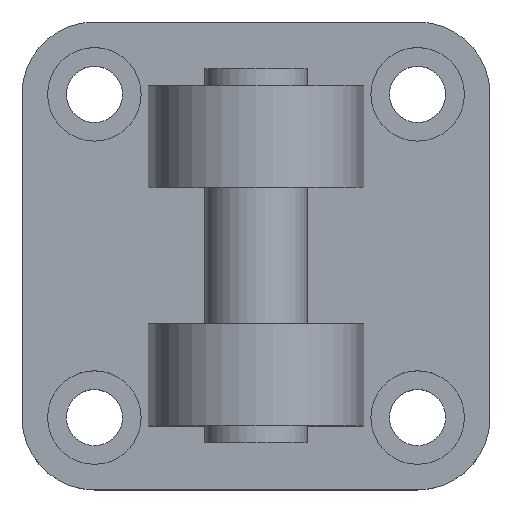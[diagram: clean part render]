
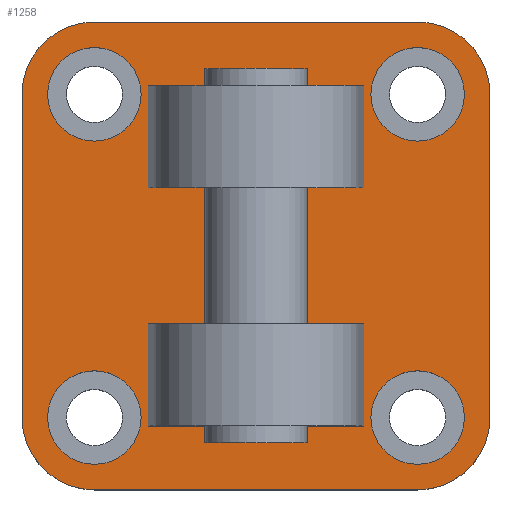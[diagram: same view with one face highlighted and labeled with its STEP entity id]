
A CAD part, top view. The second image highlights one B-rep face of the part: STEP entity #1258.
In plain terms, the highlighted planar face has unit normal (0, 0, 1).
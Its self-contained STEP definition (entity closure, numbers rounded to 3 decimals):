
#151=CARTESIAN_POINT('',(27.5,-19.,10.0));
#152=VERTEX_POINT('',#151);
#153=CARTESIAN_POINT('',(19.0,-27.5,10.0));
#154=VERTEX_POINT('',#153);
#155=CARTESIAN_POINT('',(19.0,-19.,10.0));
#156=DIRECTION('',(0.0,0.0,-1.));
#157=DIRECTION('',(0.707,-0.707,0.0));
#158=AXIS2_PLACEMENT_3D('',#155,#156,#157);
#159=CIRCLE('',#158,8.5);
#160=EDGE_CURVE('',#152,#154,#159,.T.);
#202=CARTESIAN_POINT('',(27.5,19.0,10.0));
#203=VERTEX_POINT('',#202);
#210=CARTESIAN_POINT('',(27.5,19.0,10.0));
#211=DIRECTION('',(0.0,-1.0,0.0));
#212=VECTOR('',#211,38.0);
#213=LINE('',#210,#212);
#214=EDGE_CURVE('',#203,#152,#213,.T.);
#338=CARTESIAN_POINT('',(-27.5,19.,10.0));
#339=VERTEX_POINT('',#338);
#340=CARTESIAN_POINT('',(-19.0,27.5,10.0));
#341=VERTEX_POINT('',#340);
#342=CARTESIAN_POINT('',(-19.0,19.,10.0));
#343=DIRECTION('',(0.0,0.0,-1.));
#344=DIRECTION('',(-0.707,0.707,0.0));
#345=AXIS2_PLACEMENT_3D('',#342,#343,#344);
#346=CIRCLE('',#345,8.5);
#347=EDGE_CURVE('',#339,#341,#346,.T.);
#371=CARTESIAN_POINT('',(19.,27.5,10.0));
#372=VERTEX_POINT('',#371);
#373=CARTESIAN_POINT('',(-19.0,27.5,10.0));
#374=DIRECTION('',(1.0,0.0,0.0));
#375=VECTOR('',#374,38.0);
#376=LINE('',#373,#375);
#377=EDGE_CURVE('',#341,#372,#376,.T.);
#394=CARTESIAN_POINT('',(19.,19.0,10.0));
#395=DIRECTION('',(0.0,0.0,-1.));
#396=DIRECTION('',(0.707,0.707,0.0));
#397=AXIS2_PLACEMENT_3D('',#394,#395,#396);
#398=CIRCLE('',#397,8.5);
#399=EDGE_CURVE('',#372,#203,#398,.T.);
#412=CARTESIAN_POINT('',(-19.,-27.5,10.0));
#413=VERTEX_POINT('',#412);
#414=CARTESIAN_POINT('',(-27.5,-19.0,10.0));
#415=VERTEX_POINT('',#414);
#416=CARTESIAN_POINT('',(-19.,-19.0,10.0));
#417=DIRECTION('',(0.0,0.0,-1.));
#418=DIRECTION('',(-0.707,-0.707,0.0));
#419=AXIS2_PLACEMENT_3D('',#416,#417,#418);
#420=CIRCLE('',#419,8.5);
#421=EDGE_CURVE('',#413,#415,#420,.T.);
#447=CARTESIAN_POINT('',(-27.5,-19.0,10.0));
#448=DIRECTION('',(0.0,1.0,0.0));
#449=VECTOR('',#448,38.0);
#450=LINE('',#447,#449);
#451=EDGE_CURVE('',#415,#339,#450,.T.);
#510=CARTESIAN_POINT('',(24.5,19.,10.0));
#511=VERTEX_POINT('',#510);
#512=CARTESIAN_POINT('',(19.,19.,10.0));
#513=DIRECTION('',(0.0,0.0,-1.0));
#514=DIRECTION('',(1.0,0.0,0.0));
#515=AXIS2_PLACEMENT_3D('',#512,#513,#514);
#516=CIRCLE('',#515,5.5);
#517=EDGE_CURVE('',#511,#511,#516,.T.);
#612=CARTESIAN_POINT('',(-13.5,-19.0,10.0));
#613=VERTEX_POINT('',#612);
#614=CARTESIAN_POINT('',(-19.0,-19.0,10.0));
#615=DIRECTION('',(0.0,0.0,-1.0));
#616=DIRECTION('',(1.0,0.0,0.0));
#617=AXIS2_PLACEMENT_3D('',#614,#615,#616);
#618=CIRCLE('',#617,5.5);
#619=EDGE_CURVE('',#613,#613,#618,.T.);
#714=CARTESIAN_POINT('',(-13.5,19.0,10.0));
#715=VERTEX_POINT('',#714);
#716=CARTESIAN_POINT('',(-19.0,19.0,10.0));
#717=DIRECTION('',(0.0,0.0,-1.0));
#718=DIRECTION('',(1.0,0.0,0.0));
#719=AXIS2_PLACEMENT_3D('',#716,#717,#718);
#720=CIRCLE('',#719,5.5);
#721=EDGE_CURVE('',#715,#715,#720,.T.);
#816=CARTESIAN_POINT('',(24.5,-19.,10.0));
#817=VERTEX_POINT('',#816);
#818=CARTESIAN_POINT('',(19.,-19.,10.0));
#819=DIRECTION('',(0.0,0.0,-1.0));
#820=DIRECTION('',(1.0,0.0,0.0));
#821=AXIS2_PLACEMENT_3D('',#818,#819,#820);
#822=CIRCLE('',#821,5.5);
#823=EDGE_CURVE('',#817,#817,#822,.T.);
#919=CARTESIAN_POINT('',(12.666,-8.,10.));
#920=VERTEX_POINT('',#919);
#929=CARTESIAN_POINT('',(-12.666,-8.,10.));
#930=VERTEX_POINT('',#929);
#931=CARTESIAN_POINT('',(12.666,-8.,10.));
#932=DIRECTION('',(-1.0,0.0,0.0));
#933=VECTOR('',#932,25.333);
#934=LINE('',#931,#933);
#935=EDGE_CURVE('',#920,#930,#934,.T.);
#965=CARTESIAN_POINT('',(12.666,8.,10.));
#966=VERTEX_POINT('',#965);
#982=CARTESIAN_POINT('',(-12.666,8.,10.));
#983=VERTEX_POINT('',#982);
#990=CARTESIAN_POINT('',(12.666,8.,10.));
#991=DIRECTION('',(-1.0,0.0,0.0));
#992=VECTOR('',#991,25.333);
#993=LINE('',#990,#992);
#994=EDGE_CURVE('',#966,#983,#993,.T.);
#1016=CARTESIAN_POINT('',(12.666,-20.0,10.0));
#1017=VERTEX_POINT('',#1016);
#1024=CARTESIAN_POINT('',(12.666,-8.,10.));
#1025=DIRECTION('',(0.0,-1.0,0.0));
#1026=VECTOR('',#1025,12.);
#1027=LINE('',#1024,#1026);
#1028=EDGE_CURVE('',#920,#1017,#1027,.T.);
#1064=CARTESIAN_POINT('',(-12.666,-20.0,10.0));
#1065=VERTEX_POINT('',#1064);
#1066=CARTESIAN_POINT('',(-12.666,-20.0,10.0));
#1067=DIRECTION('',(0.0,1.0,0.0));
#1068=VECTOR('',#1067,12.);
#1069=LINE('',#1066,#1068);
#1070=EDGE_CURVE('',#1065,#930,#1069,.T.);
#1089=CARTESIAN_POINT('',(12.666,-20.0,10.0));
#1090=DIRECTION('',(-1.0,0.0,0.0));
#1091=VECTOR('',#1090,25.333);
#1092=LINE('',#1089,#1091);
#1093=EDGE_CURVE('',#1017,#1065,#1092,.T.);
#1108=CARTESIAN_POINT('',(12.666,20.0,10.0));
#1109=VERTEX_POINT('',#1108);
#1110=CARTESIAN_POINT('',(12.666,20.0,10.0));
#1111=DIRECTION('',(0.0,-1.0,0.0));
#1112=VECTOR('',#1111,12.);
#1113=LINE('',#1110,#1112);
#1114=EDGE_CURVE('',#1109,#966,#1113,.T.);
#1165=CARTESIAN_POINT('',(-12.666,20.0,10.0));
#1166=VERTEX_POINT('',#1165);
#1173=CARTESIAN_POINT('',(-12.666,8.,10.));
#1174=DIRECTION('',(0.0,1.0,0.0));
#1175=VECTOR('',#1174,12.);
#1176=LINE('',#1173,#1175);
#1177=EDGE_CURVE('',#983,#1166,#1176,.T.);
#1187=CARTESIAN_POINT('',(-12.666,20.0,10.0));
#1188=DIRECTION('',(1.0,0.0,0.0));
#1189=VECTOR('',#1188,25.333);
#1190=LINE('',#1187,#1189);
#1191=EDGE_CURVE('',#1166,#1109,#1190,.T.);
#1208=CARTESIAN_POINT('',(19.0,-27.5,10.0));
#1209=DIRECTION('',(-1.0,0.0,0.0));
#1210=VECTOR('',#1209,38.0);
#1211=LINE('',#1208,#1210);
#1212=EDGE_CURVE('',#154,#413,#1211,.T.);
#1219=CARTESIAN_POINT('',(0.0,0.,10.0));
#1220=DIRECTION('',(0.0,0.0,1.0));
#1221=DIRECTION('',(1.0,0.0,0.0));
#1222=AXIS2_PLACEMENT_3D('',#1219,#1220,#1221);
#1223=PLANE('',#1222);
#1224=ORIENTED_EDGE('',*,*,#160,.F.);
#1225=ORIENTED_EDGE('',*,*,#214,.F.);
#1226=ORIENTED_EDGE('',*,*,#399,.F.);
#1227=ORIENTED_EDGE('',*,*,#377,.F.);
#1228=ORIENTED_EDGE('',*,*,#347,.F.);
#1229=ORIENTED_EDGE('',*,*,#451,.F.);
#1230=ORIENTED_EDGE('',*,*,#421,.F.);
#1231=ORIENTED_EDGE('',*,*,#1212,.F.);
#1232=EDGE_LOOP('',(#1224,#1225,#1226,#1227,#1228,#1229,#1230,#1231));
#1233=FACE_OUTER_BOUND('',#1232,.T.);
#1234=ORIENTED_EDGE('',*,*,#517,.T.);
#1235=EDGE_LOOP('',(#1234));
#1236=FACE_BOUND('',#1235,.T.);
#1237=ORIENTED_EDGE('',*,*,#619,.T.);
#1238=EDGE_LOOP('',(#1237));
#1239=FACE_BOUND('',#1238,.T.);
#1240=ORIENTED_EDGE('',*,*,#721,.T.);
#1241=EDGE_LOOP('',(#1240));
#1242=FACE_BOUND('',#1241,.T.);
#1243=ORIENTED_EDGE('',*,*,#823,.T.);
#1244=EDGE_LOOP('',(#1243));
#1245=FACE_BOUND('',#1244,.T.);
#1246=ORIENTED_EDGE('',*,*,#1028,.T.);
#1247=ORIENTED_EDGE('',*,*,#1093,.T.);
#1248=ORIENTED_EDGE('',*,*,#1070,.T.);
#1249=ORIENTED_EDGE('',*,*,#935,.F.);
#1250=EDGE_LOOP('',(#1246,#1247,#1248,#1249));
#1251=FACE_BOUND('',#1250,.T.);
#1252=ORIENTED_EDGE('',*,*,#994,.T.);
#1253=ORIENTED_EDGE('',*,*,#1177,.T.);
#1254=ORIENTED_EDGE('',*,*,#1191,.T.);
#1255=ORIENTED_EDGE('',*,*,#1114,.T.);
#1256=EDGE_LOOP('',(#1252,#1253,#1254,#1255));
#1257=FACE_BOUND('',#1256,.T.);
#1258=ADVANCED_FACE('',(#1233,#1236,#1239,#1242,#1245,#1251,#1257),#1223,.T.);
